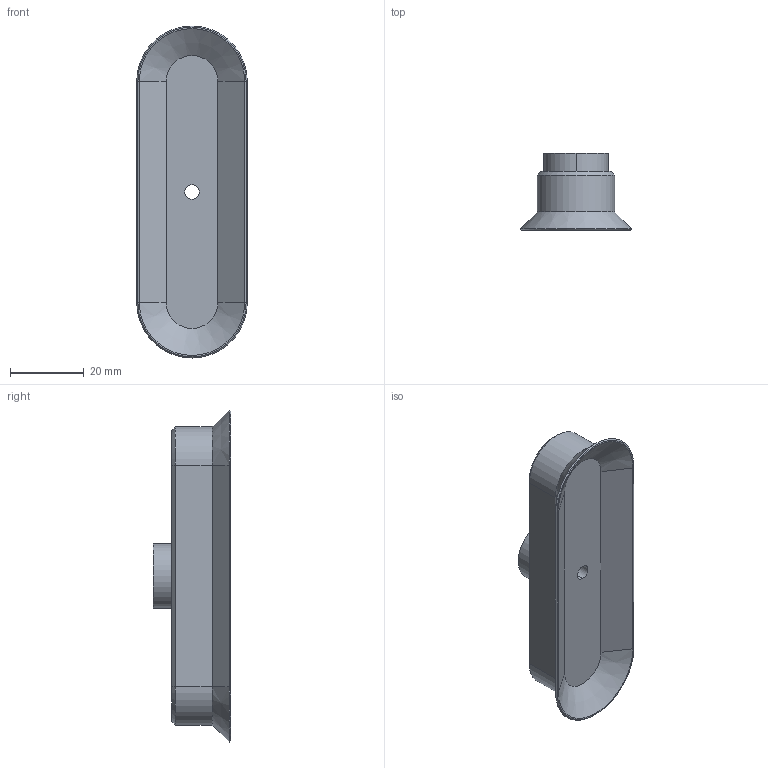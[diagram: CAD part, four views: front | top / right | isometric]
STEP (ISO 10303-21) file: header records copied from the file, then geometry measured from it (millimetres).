
FILE_DESCRIPTION (( 'STEP AP214' ), '1' );
FILE_NAME ('VS-PO3090.STEP', '2019-11-13T09:23:08', ( '微软用户' ), ( '微软中国' ), 'SwSTEP 2.0', 'SolidWorks 2016', '' );
FILE_SCHEMA (( 'AUTOMOTIVE_DESIGN' ));
Length unit declared in the file: millimetre
Products named in the file (1): VS-PO3090
Bounding box: 30 x 21 x 90 mm (x, y, z)
Volume: 19634.3 mm3; surface area: 8482.6 mm2
Topology: 1 solids, 1 shells, 49 faces, 103 edges, 62 vertices
Faces by surface type: cylinder 18, plane 18, cone 10, bspline 3
Entity records: 1380 total; most frequent: CARTESIAN_POINT 263, DIRECTION 248, ORIENTED_EDGE 206, EDGE_CURVE 103, AXIS2_PLACEMENT_3D 99, VERTEX_POINT 62, EDGE_LOOP 57, CIRCLE 52
